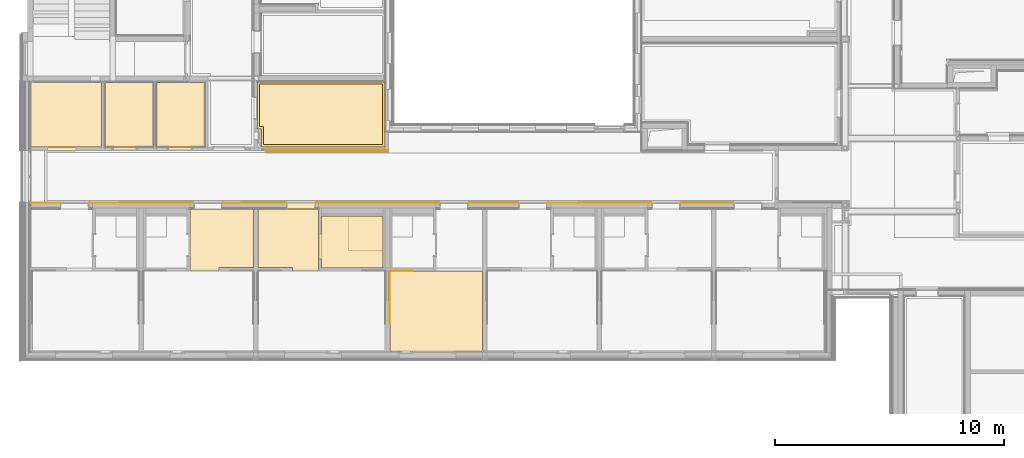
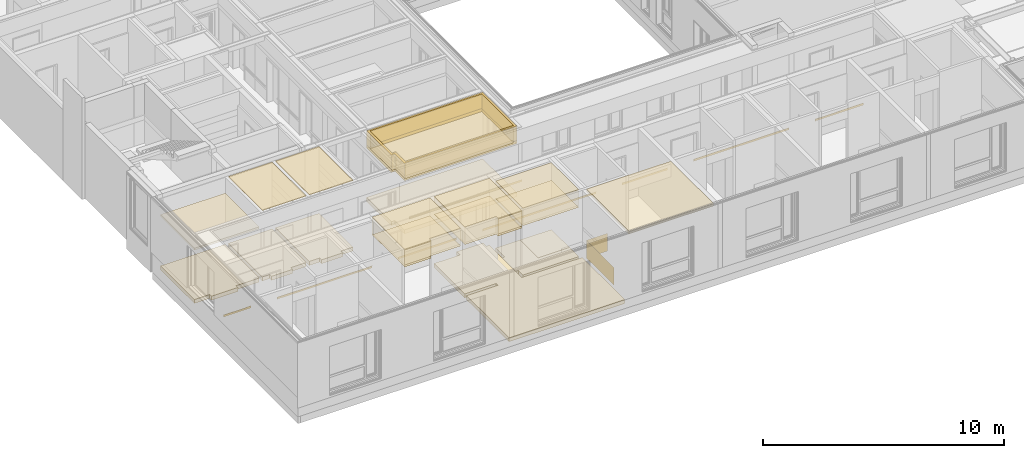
# One storey, part 159 of 207: 37 coverings.
"""IFC4 building model written with IfcOpenShell, lengths in metres."""

import ifcopenshell
import ifcopenshell.guid

model = None  # the IFC model being written
_history = None  # IfcOwnerHistory: only IFC2X3 demands one
_inside = {}  # id of a spatial element -> (the spatial element, [elements in it])
_under = {}  # id of a project, library or spatial element -> (it, [spatial elements below it])
_declared = {}  # id of a project -> (the project, [libraries it declares])
_typed = {}  # id of a type object -> (the type object, [elements of that type])
_made_of = {}  # id of a material, layer set ... -> (it, [elements and type objects made of it])


def new_model(schema):
    """Start an empty IFC model of exactly this schema.

    Asked for "IFC4X3", IfcOpenShell would pick the latest addendum, in which some entities
    have other attributes; the version numbers below select the first issue.
    IFC2X3 requires an IfcOwnerHistory on every rooted entity: one is made here for all.
    """
    global model, _history
    if schema == "IFC4X3":
        model = ifcopenshell.file(schema_version=(4, 3, 0, 0))
    else:
        model = ifcopenshell.file(schema=schema)
    _inside.clear()
    _under.clear()
    _declared.clear()
    _typed.clear()
    _made_of.clear()
    _history = None
    if model.schema == "IFC2X3":
        org = make("IfcOrganization", Name="unknown")
        user = make(
            "IfcPersonAndOrganization",
            ThePerson=make("IfcPerson", FamilyName="unknown"),
            TheOrganization=org,
        )
        app = make(
            "IfcApplication",
            ApplicationDeveloper=org,
            Version="unknown",
            ApplicationFullName="unknown",
            ApplicationIdentifier="unknown",
        )
        _history = make(
            "IfcOwnerHistory",
            OwningUser=user,
            OwningApplication=app,
            ChangeAction="ADDED",
            CreationDate=0,
        )
    return model


def make(cls, **values):
    """One entity of the class cls with the attributes given. An attribute that is None is left unset."""
    return model.create_entity(
        cls, **{name: value for name, value in values.items() if value is not None}
    )


def entity(cls, *values):
    """Any entity or typed value of the class cls, its attributes in the order of the schema. None: left unset."""
    e = model.create_entity(cls)
    for i, value in enumerate(values):
        if value is not None:
            e[i] = value
    return e


def rooted(cls, **values):
    """An entity with a GlobalId (a new one), such as an element, a storey or a relation."""
    return make(cls, GlobalId=ifcopenshell.guid.new(), OwnerHistory=_history, **values)


def si_unit(unit_type, name, prefix=None):
    """IfcSIUnit, for example si_unit("LENGTHUNIT", "METRE", prefix="MILLI")."""
    return make("IfcSIUnit", UnitType=unit_type, Prefix=prefix, Name=name)


def converted_unit(unit_type, name, factor, base, dimensions=None, offset=None):
    """IfcConversionBasedUnit, such as the inch: factor (a typed value) times the base unit."""
    return make(
        "IfcConversionBasedUnit"
        if offset is None
        else "IfcConversionBasedUnitWithOffset",
        ConversionOffset=offset,
        Dimensions=None
        if dimensions is None
        else entity("IfcDimensionalExponents", *dimensions),
        UnitType=unit_type,
        Name=name,
        ConversionFactor=make(
            "IfcMeasureWithUnit", ValueComponent=factor, UnitComponent=base
        ),
    )


def derived_unit(unit_type, elements):
    """IfcDerivedUnit: a product of units, each with its exponent."""
    return make(
        "IfcDerivedUnit",
        Elements=[
            make("IfcDerivedUnitElement", Unit=unit, Exponent=power)
            for unit, power in elements
        ],
        UnitType=unit_type,
    )


def assignment(units):
    """IfcUnitAssignment: the units of a project."""
    return None if units is None else make("IfcUnitAssignment", Units=units)


def point(xyz):
    """IfcCartesianPoint."""
    return None if xyz is None else make("IfcCartesianPoint", Coordinates=xyz)


def direction(xyz):
    """IfcDirection."""
    return None if xyz is None else make("IfcDirection", DirectionRatios=xyz)


def frame(location, z_axis=None, x_axis=None):
    """IfcAxis2Placement3D, a coordinate frame: its origin and axes. An axis left out is left unset."""
    return make(
        "IfcAxis2Placement3D",
        Location=point(location),
        Axis=direction(z_axis),
        RefDirection=direction(x_axis),
    )


def frame_2d(location, x_axis=None):
    """IfcAxis2Placement2D, a coordinate frame in the plane: its origin and x axis."""
    return make(
        "IfcAxis2Placement2D", Location=point(location), RefDirection=direction(x_axis)
    )


def origin():
    """The frame at (0, 0, 0) with its axes left unset."""
    return frame((0.0, 0.0, 0.0))


def origin_with_axes():
    """The frame at (0, 0, 0) with the z axis (0, 0, 1) and the x axis (1, 0, 0) written out."""
    return frame((0.0, 0.0, 0.0), z_axis=(0.0, 0.0, 1.0), x_axis=(1.0, 0.0, 0.0))


def place(relative_to, where):
    """IfcLocalPlacement: puts the frame where relative to a parent placement (None: the world)."""
    return make(
        "IfcLocalPlacement", PlacementRelTo=relative_to, RelativePlacement=where
    )


def context(
    kind, dimensions, precision=None, world=None, true_north=None, identifier=None
):
    """IfcGeometricRepresentationContext, for example the 3D "Model" context."""
    return make(
        "IfcGeometricRepresentationContext",
        ContextIdentifier=identifier,
        ContextType=kind,
        CoordinateSpaceDimension=dimensions,
        Precision=precision,
        WorldCoordinateSystem=world,
        TrueNorth=true_north,
    )


def subcontext(parent, identifier, kind, view, scale=None):
    """IfcGeometricRepresentationSubContext, for example "Body" below "Model"."""
    return make(
        "IfcGeometricRepresentationSubContext",
        ContextIdentifier=identifier,
        ContextType=kind,
        ParentContext=parent,
        TargetScale=scale,
        TargetView=view,
    )


def project(units=None, contexts=None):
    """IfcProject with its units and contexts."""
    return rooted(
        "IfcProject",
        Name="project",
        RepresentationContexts=contexts,
        UnitsInContext=assignment(units),
    )


def spatial(cls, under=None, at=None, **own):
    """A site, building, storey or space (cls), placed at a placement, below another one or the project."""
    s = rooted(cls, ObjectPlacement=at, **own)
    if under is not None:
        _under.setdefault(under.id(), (under, []))[1].append(s)
    return s


def polyline(points):
    """IfcPolyline through the points."""
    return make("IfcPolyline", Points=[point(p) for p in points])


def profile(cls, at=None, kind="AREA", **sizes):
    """A parametric profile (cls). Its sizes go by their IFC names, for example OverallWidth=200.0."""
    return make(cls, ProfileType=kind, Position=at, **sizes)


def rectangle(**sizes):
    """IfcRectangleProfileDef."""
    return profile("IfcRectangleProfileDef", **sizes)


def outline(outer, holes=None, kind="AREA"):
    """IfcArbitraryClosedProfileDef: a profile drawn as a closed curve; with holes, ...WithVoids."""
    if holes is None:
        return make("IfcArbitraryClosedProfileDef", ProfileType=kind, OuterCurve=outer)
    return make(
        "IfcArbitraryProfileDefWithVoids",
        ProfileType=kind,
        OuterCurve=outer,
        InnerCurves=holes,
    )


def extrude(swept, where, along, depth):
    """IfcExtrudedAreaSolid: the profile swept, set in the frame where, extruded along a direction by depth."""
    return make(
        "IfcExtrudedAreaSolid",
        SweptArea=swept,
        Position=where,
        ExtrudedDirection=direction(along),
        Depth=depth,
    )


def shape(context_of_items, identifier, shape_type, items):
    """IfcShapeRepresentation: the items that make up one representation, for example the "Body"."""
    return make(
        "IfcShapeRepresentation",
        ContextOfItems=context_of_items,
        RepresentationIdentifier=identifier,
        RepresentationType=shape_type,
        Items=items,
    )


def material(Name=None, Category=None):
    """IfcMaterial."""
    return make("IfcMaterial", Name=Name, Category=Category)


def layer(
    of_material, thickness, ventilated=None, Name=None, Category=None, Priority=None
):
    """IfcMaterialLayer: one layer of a wall or slab, of a material (None: an air gap)."""
    return make(
        "IfcMaterialLayer",
        Material=of_material,
        LayerThickness=thickness,
        IsVentilated=ventilated,
        Name=Name,
        Category=Category,
        Priority=Priority,
    )


def layer_set(layers, Name=None):
    """IfcMaterialLayerSet."""
    return make("IfcMaterialLayerSet", MaterialLayers=layers, LayerSetName=Name)


def layer_usage(for_layer_set, set_direction, sense, offset, extent=None):
    """IfcMaterialLayerSetUsage: how a layer set lies in its element."""
    return make(
        "IfcMaterialLayerSetUsage",
        ForLayerSet=for_layer_set,
        LayerSetDirection=set_direction,
        DirectionSense=sense,
        OffsetFromReferenceLine=offset,
        ReferenceExtent=extent,
    )


def made_of(thing, what):
    """Note that an element or type object is made of a material, layer set ...; save() writes the relation."""
    if what is not None:
        _made_of.setdefault(what.id(), (what, []))[1].append(thing)
    return thing


def element(
    cls,
    number,
    at=None,
    inside=None,
    cuts=None,
    type_object=None,
    material=None,
    context=None,
    identifier="Body",
    shape_type=None,
    held_by="IfcProductDefinitionShape",
    body=None,
    shapes=None,
    **own,
):
    """One element of the class cls, such as IfcWall. Its Tag is "e" and its number.

    at: its placement. inside: the storey or other place that contains it. cuts: it is an
    opening in that element (IfcRelVoidsElement). A single representation is given by context,
    identifier, shape_type and body (its items); several are given by shapes. held_by: the class
    of the entity that holds the representations. save() writes the other relations.
    """
    e = rooted(cls, Tag="e%d" % number, ObjectPlacement=at, **own)
    if body is not None:
        shapes = [shape(context, identifier, shape_type, body)]
    if shapes is not None:
        e.Representation = make(held_by, Representations=shapes)
    if inside is not None:
        _inside.setdefault(inside.id(), (inside, []))[1].append(e)
    if cuts is not None:
        rooted(
            "IfcRelVoidsElement", RelatingBuildingElement=cuts, RelatedOpeningElement=e
        )
    if type_object is not None:
        _typed.setdefault(type_object.id(), (type_object, []))[1].append(e)
    return made_of(e, material)


def aggregate(whole, parts):
    """IfcRelAggregates: a whole, such as a stair, and the parts it consists of."""
    return rooted("IfcRelAggregates", RelatingObject=whole, RelatedObjects=parts)


def save(model, path):
    """Write the relations noted so far, then the file.

    IfcRelAggregates (storeys below a building ...), IfcRelContainedInSpatialStructure (elements
    in a storey), IfcRelDefinesByType, IfcRelAssociatesMaterial and IfcRelDeclares: one each for
    every whole, place, type object, material and project.
    """
    for whole, parts in _under.values():
        aggregate(whole, parts)
    for where, things in _inside.values():
        rooted(
            "IfcRelContainedInSpatialStructure",
            RelatedElements=things,
            RelatingStructure=where,
        )
    for kind, things in _typed.values():
        rooted("IfcRelDefinesByType", RelatedObjects=things, RelatingType=kind)
    for what, things in _made_of.values():
        rooted("IfcRelAssociatesMaterial", RelatedObjects=things, RelatingMaterial=what)
    for by, libraries in _declared.values():
        rooted("IfcRelDeclares", RelatingContext=by, RelatedDefinitions=libraries)
    model.write(path)


model = new_model("IFC4")

# Units and contexts
model_context = context("Model", 3, precision=1e-05, world=origin())
body_context = subcontext(model_context, "Body", "Model", "MODEL_VIEW")
ifc_project = project(units=[si_unit("LENGTHUNIT", "METRE"), si_unit("AREAUNIT", "SQUARE_METRE"), si_unit("VOLUMEUNIT", "CUBIC_METRE"), si_unit("MASSUNIT", "GRAM", prefix="KILO"), converted_unit("PLANEANGLEUNIT", "DEGREE", entity("IfcPlaneAngleMeasure", 0.0174532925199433), si_unit("PLANEANGLEUNIT", "RADIAN"), dimensions=[0, 0, 0, 0, 0, 0, 0]), derived_unit("THERMALTRANSMITTANCEUNIT", [(si_unit("POWERUNIT", "WATT"), 1), (si_unit("THERMODYNAMICTEMPERATUREUNIT", "KELVIN"), -1), (si_unit("LENGTHUNIT", "METRE"), -2)]), derived_unit("VOLUMETRICFLOWRATEUNIT", [(si_unit("LENGTHUNIT", "METRE"), 3), (converted_unit("TIMEUNIT", "hour", entity("IfcTimeMeasure", 3600.0), si_unit("TIMEUNIT", "SECOND"), dimensions=[0, 0, 1, 0, 0, 0, 0]), -1), (si_unit("LENGTHUNIT", "METRE"), -1)])], contexts=[model_context])

# Site, building, storey, space
site_placement = place(None, origin())
site = spatial("IfcSite", under=ifc_project, at=site_placement, Name="Psychiatrie Neubau Wunstorf", CompositionType="ELEMENT")
building_placement = place(site_placement, origin())
building = spatial("IfcBuilding", under=site, at=building_placement, Name="Neubau H2 Stationsgebäude", CompositionType="ELEMENT")
storey_placement = place(building_placement, frame((0.0, 0.0, -0.2)))
storey = spatial("IfcBuildingStorey", under=building, at=storey_placement, Name="H2 Ebene 0", CompositionType="ELEMENT", Elevation=-0.2)
space_1_placement = place(storey_placement, frame((0.169, 4.33074963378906, 0.0)))
space_1 = spatial("IfcSpace", under=storey, at=space_1_placement, Name="WUN-H2-E00-F04", CompositionType="ELEMENT")

# Coverings
ifc_material_1 = material(Name="97")
ifc_layer_1 = layer(ifc_material_1, 0.001)
ifc_layer_set_1 = layer_set([ifc_layer_1])
ifc_layer_usage_1 = layer_usage(ifc_layer_set_1, "AXIS3", "POSITIVE", 0.0)
covering_1_placement = place(space_1_placement, frame((0.0, 0.0, 0.8)))
element("IfcCovering", 1, at=covering_1_placement, inside=space_1, material=ifc_layer_usage_1, Name="Handlauf", PredefinedType="CLADDING", context=body_context, shape_type="SweptSolid", body=[
    extrude(rectangle(XDim=0.1, YDim=4.55, at=frame_2d((2.275, 0.05), x_axis=(0.0, 1.0))), frame((22.556, 0.0, 0.1), z_axis=(0.0, 1.0, 0.0), x_axis=(1.0, 0.0, 0.0)), (0.0, 0.0, 1.0), 0.001),
    extrude(rectangle(XDim=0.1, YDim=2.32000000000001, at=frame_2d((1.16, 0.05), x_axis=(-3.63797880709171e-14, 1.0))), frame((28.366, 0.0, 0.1), z_axis=(0.0, 1.0, 0.0), x_axis=(1.0, 0.0, 0.0)), (0.0, 0.0, 1.0), 0.001),
    extrude(rectangle(XDim=0.1, YDim=4.55, at=frame_2d((-2.275, -0.05), x_axis=(0.0, -1.0))), frame((7.106, 0.0, 0.0), z_axis=(9.99444727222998e-17, 1.0, -4.54747350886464e-15), x_axis=(1.0, -9.99444727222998e-17, 0.0)), (0.0, 0.0, 1.0), 0.001),
    extrude(rectangle(XDim=0.1, YDim=2.18, at=frame_2d((-1.09, -0.05), x_axis=(0.0, -1.0))), frame((21.296, 0.0, 0.0), z_axis=(0.0, 1.0, 0.0), x_axis=(1.0, 0.0, 0.0)), (0.0, 0.0, 1.0), 0.001),
    extrude(rectangle(XDim=0.1, YDim=5.425, at=frame_2d((-2.7125, -0.05), x_axis=(0.0, -1.0))), frame((17.856, 0.0, 0.0), z_axis=(0.0, 1.0, 0.0), x_axis=(1.0, 0.0, 0.0)), (0.0, 0.0, 1.0), 0.001),
    extrude(rectangle(XDim=0.1, YDim=2.805, at=frame_2d((-1.4025, -0.05), x_axis=(0.0, -1.0))), frame((11.171, 0.0, 0.0), z_axis=(0.0, 1.0, 0.0), x_axis=(1.0, 0.0, 0.0)), (0.0, 0.0, 1.0), 0.001),
    extrude(rectangle(XDim=0.1, YDim=1.296, at=frame_2d((-0.648, -0.05), x_axis=(4.54747350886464e-15, -1.0))), frame((1.296, 0.0, 0.0), z_axis=(0.0, 1.0, 0.0), x_axis=(1.0, 0.0, 0.0)), (0.0, 0.0, 1.0), 0.001),
])
ifc_material_2 = material(Name="97")
ifc_layer_2 = layer(ifc_material_2, 0.001)
ifc_layer_set_2 = layer_set([ifc_layer_2])
ifc_layer_usage_2 = layer_usage(ifc_layer_set_2, "AXIS3", "POSITIVE", 0.0)
covering_2_placement = place(space_1_placement, frame((10.241, 2.2942502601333, 0.8)))
element("IfcCovering", 2, at=covering_2_placement, inside=space_1, material=ifc_layer_usage_2, Name="Handlauf", PredefinedType="CLADDING", context=body_context, shape_type="SweptSolid", body=[
    extrude(rectangle(XDim=0.1, YDim=5.379, at=frame_2d((-2.6895, -0.05), x_axis=(0.0, -1.0))), frame((0.0, 0.0, 0.0), z_axis=(0.0, -1.0, 0.0), x_axis=(-1.0, 0.0, 0.0)), (0.0, 0.0, 1.0), 0.001),
])

# Space
space_2_placement = place(storey_placement, frame((12.875, 1.48374963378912, 0.0)))
space_2 = spatial("IfcSpace", under=storey, at=space_2_placement, Name="WUN-H2-E00-023a", CompositionType="ELEMENT")

# Coverings
ifc_material_3 = material(Name="Fl1")
ifc_layer_3 = layer(ifc_material_3, 0.2)
ifc_layer_set_3 = layer_set([ifc_layer_3])
ifc_layer_usage_3 = layer_usage(ifc_layer_set_3, "AXIS3", "POSITIVE", 0.0)
covering_3_placement = place(space_2_placement, frame((-0.125, 0.0, 0.0)))
element("IfcCovering", 3, at=covering_3_placement, inside=space_2, material=ifc_layer_usage_3, Name="Fliesen", PredefinedType="FLOORING", context=body_context, shape_type="SweptSolid", body=[
    extrude(rectangle(XDim=0.125, YDim=1.135, at=frame_2d((0.0625, 0.5675), x_axis=(1.0, 0.0))), frame((0.0, 0.37499999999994, 0.0), z_axis=(0.0, 0.0, 1.0), x_axis=(1.0, 0.0, 0.0)), (0.0, 0.0, 1.0), 0.2),
    extrude(outline(polyline([(0.0, 0.0), (2.675, 0.0), (2.675, 0.76499947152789), (1.17499999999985, 0.76499947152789), (1.17499999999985, 2.265), (0.0, 2.265), (0.0, 0.0)])), frame((0.125, 0.0, 0.0), z_axis=(0.0, 0.0, 1.0), x_axis=(1.0, 0.0, 0.0)), (0.0, 0.0, 1.0), 0.2),
])
ifc_material_4 = material(Name="Fl2")
ifc_layer_4 = layer(ifc_material_4, 0.2)
ifc_layer_set_4 = layer_set([ifc_layer_4])
ifc_layer_usage_4 = layer_usage(ifc_layer_set_4, "AXIS3", "POSITIVE", 0.0)
covering_4_placement = place(space_2_placement, frame((1.17499999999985, 0.76499947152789, 0.0)))
element("IfcCovering", 4, at=covering_4_placement, inside=space_2, material=ifc_layer_usage_4, Name="Fliesen Mosaik", PredefinedType="FLOORING", context=body_context, shape_type="SweptSolid", body=[
    extrude(rectangle(XDim=1.50000000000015, YDim=1.50000052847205, at=frame_2d((0.750000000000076, 0.750000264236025), x_axis=(1.0, 0.0))), origin_with_axes(), (0.0, 0.0, 1.0), 0.2),
])
ifc_material_5 = material()
ifc_layer_5 = layer(ifc_material_5, 0.036)
ifc_layer_set_5 = layer_set([ifc_layer_5])
ifc_layer_usage_5 = layer_usage(ifc_layer_set_5, "AXIS3", "POSITIVE", 0.0)
covering_5_placement = place(space_2_placement, frame((0.0, 0.0, 3.6)))
element("IfcCovering", 5, at=covering_5_placement, inside=space_2, material=ifc_layer_usage_5, Name="Gipsfaserplatten 2-lagig (BSK)", PredefinedType="CEILING", context=body_context, shape_type="SweptSolid", body=[
    extrude(rectangle(XDim=2.265, YDim=2.675, at=frame_2d((-1.3375, 1.1325), x_axis=(0.0, 1.0))), frame((2.675, 2.265, 0.0), z_axis=(0.0, 0.0, -1.0), x_axis=(1.0, 0.0, 0.0)), (0.0, 0.0, 1.0), 0.036),
])
ifc_material_6 = material(Name="Installationshöhe")
ifc_layer_6 = layer(ifc_material_6, 0.764)
ifc_layer_set_6 = layer_set([ifc_layer_6])
ifc_layer_usage_6 = layer_usage(ifc_layer_set_6, "AXIS3", "POSITIVE", 0.0)
covering_6_placement = place(space_2_placement, frame((0.0, 0.0, 3.564)))
element("IfcCovering", 6, at=covering_6_placement, inside=space_2, material=ifc_layer_usage_6, Name="Gipsfaserplatten 2-lagig (BSK)", PredefinedType="CEILING", context=body_context, shape_type="SweptSolid", body=[
    extrude(rectangle(XDim=2.265, YDim=2.675, at=frame_2d((-1.3375, 1.1325), x_axis=(0.0, 1.0))), frame((2.675, 2.265, 0.0), z_axis=(0.0, 0.0, -1.0), x_axis=(1.0, 0.0, 0.0)), (0.0, 0.0, 1.0), 0.764),
])
ifc_material_7 = material(Name="B")
ifc_layer_7 = layer(ifc_material_7, 0.1)
ifc_layer_set_7 = layer_set([ifc_layer_7])
ifc_layer_usage_7 = layer_usage(ifc_layer_set_7, "AXIS3", "POSITIVE", 0.0)
covering_7_placement = place(space_2_placement, frame((0.0, 0.0, 2.8)))
element("IfcCovering", 7, at=covering_7_placement, inside=space_2, material=ifc_layer_usage_7, Name="Gipskarton, imprägniert", PredefinedType="CEILING", context=body_context, shape_type="SweptSolid", body=[
    extrude(rectangle(XDim=2.265, YDim=2.675, at=frame_2d((-1.3375, 1.1325), x_axis=(0.0, 1.0))), frame((2.675, 2.265, 0.0), z_axis=(0.0, 0.0, -1.0), x_axis=(1.0, 0.0, 0.0)), (0.0, 0.0, 1.0), 0.1),
])
ifc_material_8 = material(Name="D1")
ifc_layer_8 = layer(ifc_material_8, 0.001)
ifc_layer_set_8 = layer_set([ifc_layer_8])
ifc_layer_usage_8 = layer_usage(ifc_layer_set_8, "AXIS3", "POSITIVE", 0.0)
covering_8_placement = place(space_2_placement, frame((0.0, 0.0, 2.7)))
element("IfcCovering", 8, at=covering_8_placement, inside=space_2, material=ifc_layer_usage_8, Name="Gipsfaserplatten 2-lagig (BSK)", PredefinedType="CEILING", context=body_context, shape_type="SweptSolid", body=[
    extrude(rectangle(XDim=2.265, YDim=2.675, at=frame_2d((-1.3375, 1.1325), x_axis=(0.0, 1.0))), frame((2.675, 2.265, 0.0), z_axis=(0.0, 0.0, -1.0), x_axis=(1.0, 0.0, 0.0)), (0.0, 0.0, 1.0), 0.001),
])

# Space
space_3_placement = place(storey_placement, frame((0.168999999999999, 6.77499990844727, 0.0)))
space_3 = spatial("IfcSpace", under=storey, at=space_3_placement, Name="WUN-H2-E00-026", CompositionType="ELEMENT")

# Coverings
ifc_material_9 = material(Name="E3")
ifc_layer_9 = layer(ifc_material_9, 0.1)
ifc_layer_set_9 = layer_set([ifc_layer_9])
ifc_layer_usage_9 = layer_usage(ifc_layer_set_9, "AXIS3", "POSITIVE", 0.0)
covering_9_placement = place(space_3_placement, frame((0.0, 0.0, 2.8)))
element("IfcCovering", 9, at=covering_9_placement, inside=space_3, material=ifc_layer_usage_9, Name="Rasterdecke", PredefinedType="CEILING", context=body_context, shape_type="SweptSolid", body=[
    extrude(rectangle(XDim=3.106, YDim=2.8199999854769, at=frame_2d((-1.553, -1.40999999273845), x_axis=(-1.0, 0.0))), frame((3.106, 0.0, 0.0), z_axis=(0.0, 0.0, -1.0), x_axis=(1.0, 0.0, 0.0)), (0.0, 0.0, 1.0), 0.1),
])
ifc_material_10 = material(Name="Ku2")
ifc_layer_10 = layer(ifc_material_10, 0.2)
ifc_layer_set_10 = layer_set([ifc_layer_10])
ifc_layer_usage_10 = layer_usage(ifc_layer_set_10, "AXIS3", "POSITIVE", 0.0)
covering_10_placement = place(space_3_placement, frame((0.0, -0.150000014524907, 0.0)))
element("IfcCovering", 10, at=covering_10_placement, inside=space_3, material=ifc_layer_usage_10, Name="PVC Bahnenware Uni", PredefinedType="FLOORING", context=body_context, shape_type="SweptSolid", body=[
    extrude(rectangle(XDim=0.15, YDim=1.26, at=frame_2d((-0.63, 0.075), x_axis=(0.0, 1.0))), frame((1.991, 0.0, 0.0), z_axis=(0.0, 0.0, 1.0), x_axis=(1.0, 0.0, 0.0)), (0.0, 0.0, 1.0), 0.2),
    extrude(rectangle(XDim=3.106, YDim=2.8199999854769, at=frame_2d((1.553, 1.40999999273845), x_axis=(1.0, 0.0))), frame((0.0, 0.150000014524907, 0.0), z_axis=(0.0, 0.0, 1.0), x_axis=(1.0, 0.0, 0.0)), (0.0, 0.0, 1.0), 0.2),
])

# Space
space_4_placement = place(storey_placement, frame((10.0675000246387, 6.77499990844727, 0.0)))
space_4 = spatial("IfcSpace", under=storey, at=space_4_placement, Name="WUN-H2-E00-037", CompositionType="ELEMENT")

# Coverings
ifc_material_11 = material(Name="Ku1")
ifc_layer_11 = layer(ifc_material_11, 0.2)
ifc_layer_set_11 = layer_set([ifc_layer_11])
ifc_layer_usage_11 = layer_usage(ifc_layer_set_11, "AXIS3", "POSITIVE", 0.0)
covering_11_placement = place(space_4_placement, origin())
element("IfcCovering", 11, at=covering_11_placement, inside=space_4, material=ifc_layer_usage_11, Name="PVC Bahnenware Holzoptik", PredefinedType="FLOORING", context=body_context, shape_type="SweptSolid", body=[
    extrude(outline(polyline([(0.175000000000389, 0.789999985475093), (0.175000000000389, 0.0), (5.57149997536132, 0.0), (5.57149997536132, 2.83549998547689), (0.0, 2.83549998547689), (0.0, 0.789999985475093), (0.175000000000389, 0.789999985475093)])), origin_with_axes(), (0.0, 0.0, 1.0), 0.2),
])
ifc_material_12 = material()
ifc_layer_12 = layer(ifc_material_12, 0.036)
ifc_layer_set_12 = layer_set([ifc_layer_12])
ifc_layer_usage_12 = layer_usage(ifc_layer_set_12, "AXIS3", "POSITIVE", 0.0)
covering_12_placement = place(space_4_placement, frame((0.1, 0.0999999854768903, 3.6)))
element("IfcCovering", 12, at=covering_12_placement, inside=space_4, material=ifc_layer_usage_12, Name="Gipsfaserplatten 2-lagig (BSK)", PredefinedType="CEILING", context=body_context, shape_type="SweptSolid", body=[
    extrude(outline(polyline([(0.0, 0.0), (5.37149997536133, 1.45231097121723e-08), (5.37149997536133, 2.6355000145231), (0.175000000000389, 2.63549999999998), (0.175000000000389, 1.84550001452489), (0.0, 1.84550001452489), (0.0, 0.0)])), frame((0.0, 2.6355000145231, 0.0), z_axis=(0.0, 0.0, -1.0), x_axis=(1.0, 0.0, 0.0)), (0.0, 0.0, 1.0), 0.036),
])
ifc_material_13 = material(Name="Installationshöhe")
ifc_layer_13 = layer(ifc_material_13, 0.714)
ifc_layer_set_13 = layer_set([ifc_layer_13])
ifc_layer_usage_13 = layer_usage(ifc_layer_set_13, "AXIS3", "POSITIVE", 0.0)
covering_13_placement = place(space_4_placement, frame((0.1, 0.0999999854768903, 3.564)))
element("IfcCovering", 13, at=covering_13_placement, inside=space_4, material=ifc_layer_usage_13, Name="Gipsfaserplatten 2-lagig (BSK)", PredefinedType="CEILING", context=body_context, shape_type="SweptSolid", body=[
    extrude(outline(polyline([(0.0, 0.0), (5.37149997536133, 1.45231097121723e-08), (5.37149997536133, 2.6355000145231), (0.175000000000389, 2.63549999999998), (0.175000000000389, 1.84550001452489), (0.0, 1.84550001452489), (0.0, 0.0)])), frame((0.0, 2.6355000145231, 0.0), z_axis=(0.0, 0.0, -1.0), x_axis=(1.0, 0.0, 0.0)), (0.0, 0.0, 1.0), 0.714),
])
ifc_material_14 = material(Name="Aa")
ifc_layer_14 = layer(ifc_material_14, 0.15)
ifc_layer_set_14 = layer_set([ifc_layer_14])
ifc_layer_usage_14 = layer_usage(ifc_layer_set_14, "AXIS3", "POSITIVE", 0.0)
covering_14_placement = place(space_4_placement, frame((0.1, 0.0999999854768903, 2.85)))
element("IfcCovering", 14, at=covering_14_placement, inside=space_4, material=ifc_layer_usage_14, Name="Gipsfaserplatten 2-lagig (BSK)", PredefinedType="CEILING", context=body_context, shape_type="SweptSolid", body=[
    extrude(outline(polyline([(0.0, 0.0), (5.37149997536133, 1.45231097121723e-08), (5.37149997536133, 2.6355000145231), (0.175000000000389, 2.63549999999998), (0.175000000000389, 1.84550001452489), (0.0, 1.84550001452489), (0.0, 0.0)])), frame((0.0, 2.6355000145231, 0.0), z_axis=(0.0, 0.0, -1.0), x_axis=(1.0, 0.0, 0.0)), (0.0, 0.0, 1.0), 0.15),
])
ifc_material_15 = material(Name="D1")
ifc_layer_15 = layer(ifc_material_15, 0.001)
ifc_layer_set_15 = layer_set([ifc_layer_15])
ifc_layer_usage_15 = layer_usage(ifc_layer_set_15, "AXIS3", "POSITIVE", 0.0)
covering_15_placement = place(space_4_placement, frame((0.1, 0.0999999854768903, 2.7)))
element("IfcCovering", 15, at=covering_15_placement, inside=space_4, material=ifc_layer_usage_15, Name="Gipsfaserplatten 2-lagig (BSK)", PredefinedType="CEILING", context=body_context, shape_type="SweptSolid", body=[
    extrude(outline(polyline([(0.0, 0.0), (5.37149997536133, 1.45231097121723e-08), (5.37149997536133, 2.6355000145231), (0.175000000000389, 2.63549999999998), (0.175000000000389, 1.84550001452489), (0.0, 1.84550001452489), (0.0, 0.0)])), frame((0.0, 2.6355000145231, 0.0), z_axis=(0.0, 0.0, -1.0), x_axis=(1.0, 0.0, 0.0)), (0.0, 0.0, 1.0), 0.001),
])
ifc_material_16 = material()
ifc_layer_16 = layer(ifc_material_16, 0.036)
ifc_layer_set_16 = layer_set([ifc_layer_16])
ifc_layer_usage_16 = layer_usage(ifc_layer_set_16, "AXIS3", "POSITIVE", 0.0)
covering_16_placement = place(space_4_placement, frame((0.0, 0.0, 3.6)))
element("IfcCovering", 16, at=covering_16_placement, inside=space_4, material=ifc_layer_usage_16, Name="Gipsfaserplatten 2-lagig (BSK)", PredefinedType="CEILING", context=body_context, shape_type="SweptSolid", body=[
    extrude(outline(polyline([(0.0, 0.0), (5.57149997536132, 0.0), (5.57149997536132, 2.8354999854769), (0.175, 2.83549997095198), (0.175000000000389, 2.0455000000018), (0.0, 2.0455000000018), (0.0, 0.0)]), holes=[polyline([(5.47149997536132, 0.100000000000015), (0.1, 0.0999999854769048), (0.1, 1.9455000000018), (0.275000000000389, 1.9455000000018), (0.275000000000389, 2.73549998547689), (5.47149997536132, 2.7355), (5.47149997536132, 0.100000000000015)])]), frame((0.0, 2.8354999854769, 0.0), z_axis=(0.0, 0.0, -1.0), x_axis=(1.0, 0.0, 0.0)), (0.0, 0.0, 1.0), 0.036),
])
ifc_material_17 = material(Name="Installationshöhe")
ifc_layer_17 = layer(ifc_material_17, 0.714)
ifc_layer_set_17 = layer_set([ifc_layer_17])
ifc_layer_usage_17 = layer_usage(ifc_layer_set_17, "AXIS3", "POSITIVE", 0.0)
covering_17_placement = place(space_4_placement, frame((0.0, 0.0, 3.564)))
element("IfcCovering", 17, at=covering_17_placement, inside=space_4, material=ifc_layer_usage_17, Name="Gipsfaserplatten 2-lagig (BSK)", PredefinedType="CEILING", context=body_context, shape_type="SweptSolid", body=[
    extrude(outline(polyline([(0.0, 0.0), (5.57149997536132, 0.0), (5.57149997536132, 2.8354999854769), (0.175, 2.83549997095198), (0.175000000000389, 2.0455000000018), (0.0, 2.0455000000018), (0.0, 0.0)]), holes=[polyline([(5.47149997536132, 0.100000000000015), (0.1, 0.0999999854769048), (0.1, 1.9455000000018), (0.275000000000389, 1.9455000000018), (0.275000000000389, 2.73549998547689), (5.47149997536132, 2.7355), (5.47149997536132, 0.100000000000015)])]), frame((0.0, 2.8354999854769, 0.0), z_axis=(0.0, 0.0, -1.0), x_axis=(1.0, 0.0, 0.0)), (0.0, 0.0, 1.0), 0.714),
])
ifc_material_18 = material(Name="A1")
ifc_layer_18 = layer(ifc_material_18, 0.15)
ifc_layer_set_18 = layer_set([ifc_layer_18])
ifc_layer_usage_18 = layer_usage(ifc_layer_set_18, "AXIS3", "POSITIVE", 0.0)
covering_18_placement = place(space_4_placement, frame((0.0, 0.0, 2.85)))
element("IfcCovering", 18, at=covering_18_placement, inside=space_4, material=ifc_layer_usage_18, Name="Gipsfaserplatten 2-lagig (BSK)", PredefinedType="CEILING", context=body_context, shape_type="SweptSolid", body=[
    extrude(outline(polyline([(0.0, 0.0), (5.57149997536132, 0.0), (5.57149997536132, 2.8354999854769), (0.175, 2.83549997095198), (0.175000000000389, 2.0455000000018), (0.0, 2.0455000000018), (0.0, 0.0)]), holes=[polyline([(5.47149997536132, 0.100000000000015), (0.1, 0.0999999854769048), (0.1, 1.9455000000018), (0.275000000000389, 1.9455000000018), (0.275000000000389, 2.73549998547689), (5.47149997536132, 2.7355), (5.47149997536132, 0.100000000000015)])]), frame((0.0, 2.8354999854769, 0.0), z_axis=(0.0, 0.0, -1.0), x_axis=(1.0, 0.0, 0.0)), (0.0, 0.0, 1.0), 0.15),
])
ifc_material_19 = material(Name="D1")
ifc_layer_19 = layer(ifc_material_19, 0.001)
ifc_layer_set_19 = layer_set([ifc_layer_19])
ifc_layer_usage_19 = layer_usage(ifc_layer_set_19, "AXIS3", "POSITIVE", 0.0)
covering_19_placement = place(space_4_placement, frame((0.0, 0.0, 2.7)))
element("IfcCovering", 19, at=covering_19_placement, inside=space_4, material=ifc_layer_usage_19, Name="Gipsfaserplatten 2-lagig (BSK)", PredefinedType="CEILING", context=body_context, shape_type="SweptSolid", body=[
    extrude(outline(polyline([(0.0, 0.0), (5.57149997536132, 0.0), (5.57149997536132, 2.8354999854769), (0.175, 2.83549997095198), (0.175000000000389, 2.0455000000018), (0.0, 2.0455000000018), (0.0, 0.0)]), holes=[polyline([(5.47149997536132, 0.100000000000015), (0.1, 0.0999999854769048), (0.1, 1.9455000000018), (0.275000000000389, 1.9455000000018), (0.275000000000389, 2.73549998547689), (5.47149997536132, 2.7355), (5.47149997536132, 0.100000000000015)])]), frame((0.0, 2.8354999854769, 0.0), z_axis=(0.0, 0.0, -1.0), x_axis=(1.0, 0.0, 0.0)), (0.0, 0.0, 1.0), 0.001),
])

# Space
space_5_placement = place(storey_placement, frame((5.1, -2.16399999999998, 0.0)))
space_5 = spatial("IfcSpace", under=storey, at=space_5_placement, Name="WUN-H2-E00-024", CompositionType="ELEMENT")

# Coverings
ifc_material_20 = material()
ifc_layer_20 = layer(ifc_material_20, 0.036)
ifc_layer_set_20 = layer_set([ifc_layer_20])
ifc_layer_usage_20 = layer_usage(ifc_layer_set_20, "AXIS3", "POSITIVE", 0.0)
covering_20_placement = place(space_5_placement, frame((2.025, 3.52274963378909, 3.6)))
element("IfcCovering", 20, at=covering_20_placement, inside=space_5, material=ifc_layer_usage_20, Name="Gipsfaserplatten 2-lagig (BSK)", PredefinedType="CEILING", context=body_context, shape_type="SweptSolid", body=[
    extrude(outline(polyline([(0.0, 2.70049999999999), (0.0, 0.0), (2.775, 0.0), (2.775, 2.5505), (1.275, 2.5505), (1.27499999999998, 2.70049999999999), (0.0, 2.70049999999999)])), frame((0.0, 2.70049999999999, 0.0), z_axis=(0.0, 0.0, -1.0), x_axis=(1.0, 0.0, 0.0)), (0.0, 0.0, 1.0), 0.036),
])
ifc_material_21 = material(Name="Installationshöhe")
ifc_layer_21 = layer(ifc_material_21, 0.764)
ifc_layer_set_21 = layer_set([ifc_layer_21])
ifc_layer_usage_21 = layer_usage(ifc_layer_set_21, "AXIS3", "POSITIVE", 0.0)
covering_21_placement = place(space_5_placement, frame((2.025, 3.52274963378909, 3.564)))
element("IfcCovering", 21, at=covering_21_placement, inside=space_5, material=ifc_layer_usage_21, Name="Gipsfaserplatten 2-lagig (BSK)", PredefinedType="CEILING", context=body_context, shape_type="SweptSolid", body=[
    extrude(outline(polyline([(0.0, 2.70049999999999), (0.0, 0.0), (2.775, 0.0), (2.775, 2.5505), (1.275, 2.5505), (1.27499999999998, 2.70049999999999), (0.0, 2.70049999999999)])), frame((0.0, 2.70049999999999, 0.0), z_axis=(0.0, 0.0, -1.0), x_axis=(1.0, 0.0, 0.0)), (0.0, 0.0, 1.0), 0.764),
])
ifc_material_22 = material(Name="A1")
ifc_layer_22 = layer(ifc_material_22, 0.1)
ifc_layer_set_22 = layer_set([ifc_layer_22])
ifc_layer_usage_22 = layer_usage(ifc_layer_set_22, "AXIS3", "POSITIVE", 0.0)
covering_22_placement = place(space_5_placement, frame((2.025, 3.52274963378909, 2.8)))
element("IfcCovering", 22, at=covering_22_placement, inside=space_5, material=ifc_layer_usage_22, Name="Gipsfaserplatten 2-lagig (BSK)", PredefinedType="CEILING", context=body_context, shape_type="SweptSolid", body=[
    extrude(outline(polyline([(0.0, 2.70049999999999), (0.0, 0.0), (2.775, 0.0), (2.775, 2.5505), (1.275, 2.5505), (1.27499999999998, 2.70049999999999), (0.0, 2.70049999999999)])), frame((0.0, 2.70049999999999, 0.0), z_axis=(0.0, 0.0, -1.0), x_axis=(1.0, 0.0, 0.0)), (0.0, 0.0, 1.0), 0.1),
])
ifc_material_23 = material(Name="D1")
ifc_layer_23 = layer(ifc_material_23, 0.001)
ifc_layer_set_23 = layer_set([ifc_layer_23])
ifc_layer_usage_23 = layer_usage(ifc_layer_set_23, "AXIS3", "POSITIVE", 0.0)
covering_23_placement = place(space_5_placement, frame((2.025, 3.52274963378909, 2.7)))
element("IfcCovering", 23, at=covering_23_placement, inside=space_5, material=ifc_layer_usage_23, Name="Gipsfaserplatten 2-lagig (BSK)", PredefinedType="CEILING", context=body_context, shape_type="SweptSolid", body=[
    extrude(outline(polyline([(0.0, 2.70049999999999), (0.0, 0.0), (2.775, 0.0), (2.775, 2.5505), (1.275, 2.5505), (1.27499999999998, 2.70049999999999), (0.0, 2.70049999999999)])), frame((0.0, 2.70049999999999, 0.0), z_axis=(0.0, 0.0, -1.0), x_axis=(1.0, 0.0, 0.0)), (0.0, 0.0, 1.0), 0.001),
])

# Space
space_6_placement = place(storey_placement, frame((15.85, -2.16399999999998, 0.0)))
space_6 = spatial("IfcSpace", under=storey, at=space_6_placement, Name="WUN-H2-E00-022", CompositionType="ELEMENT")

# Coverings
ifc_material_24 = material(Name="84")
ifc_layer_24 = layer(ifc_material_24, 0.001)
ifc_layer_set_24 = layer_set([ifc_layer_24])
ifc_layer_usage_24 = layer_usage(ifc_layer_set_24, "AXIS3", "POSITIVE", 0.0)
covering_24_placement = place(space_6_placement, frame((0.0, 1.22274963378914, 0.1)))
element("IfcCovering", 24, at=covering_24_placement, inside=space_6, material=ifc_layer_usage_24, Name="Acrobyn", PredefinedType="CLADDING", context=body_context, shape_type="SweptSolid", body=[
    extrude(rectangle(XDim=1.0, YDim=0.9, at=frame_2d((0.5, -0.45), x_axis=(1.0, 0.0))), frame((1.0, 2.3, 0.0), z_axis=(0.0, -1.0, 0.0), x_axis=(-1.0, 0.0, 0.0)), (0.0, 0.0, 1.0), 0.001),
    extrude(rectangle(XDim=2.3, YDim=0.9, at=frame_2d((1.15, -0.45), x_axis=(1.0, 0.0))), frame((0.0, 2.3, 0.0), z_axis=(1.0, 0.0, 0.0), x_axis=(0.0, -1.0, 0.0)), (0.0, 0.0, 1.0), 0.001),
])
ifc_material_25 = material()
ifc_layer_25 = layer(ifc_material_25, 0.036)
ifc_layer_set_25 = layer_set([ifc_layer_25])
ifc_layer_usage_25 = layer_usage(ifc_layer_set_25, "AXIS3", "POSITIVE", 0.0)
covering_25_placement = place(space_6_placement, frame((0.0, 0.0, 3.6)))
element("IfcCovering", 25, at=covering_25_placement, inside=space_6, material=ifc_layer_usage_25, Name="Gipsfaserplatten 2-lagig (BSK)", PredefinedType="CEILING", context=body_context, shape_type="SweptSolid", body=[
    extrude(rectangle(XDim=3.52274963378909, YDim=4.05, at=frame_2d((-2.025, 1.76137481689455), x_axis=(0.0, 1.0))), frame((4.05, 3.52274963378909, 0.0), z_axis=(0.0, 0.0, -1.0), x_axis=(1.0, 0.0, 0.0)), (0.0, 0.0, 1.0), 0.036),
])
ifc_material_26 = material(Name="Installationshöhe")
ifc_layer_26 = layer(ifc_material_26, 0.114)
ifc_layer_set_26 = layer_set([ifc_layer_26])
ifc_layer_usage_26 = layer_usage(ifc_layer_set_26, "AXIS3", "POSITIVE", 0.0)
covering_26_placement = place(space_6_placement, frame((0.0, 0.0, 3.564)))
element("IfcCovering", 26, at=covering_26_placement, inside=space_6, material=ifc_layer_usage_26, Name="Gipsfaserplatten 2-lagig (BSK)", PredefinedType="CEILING", context=body_context, shape_type="SweptSolid", body=[
    extrude(rectangle(XDim=3.52274963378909, YDim=4.05, at=frame_2d((-2.025, 1.76137481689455), x_axis=(0.0, 1.0))), frame((4.05, 3.52274963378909, 0.0), z_axis=(0.0, 0.0, -1.0), x_axis=(1.0, 0.0, 0.0)), (0.0, 0.0, 1.0), 0.114),
])

# Space
space_7_placement = place(storey_placement, frame((10.1, -2.16399999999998, 0.0)))
space_7 = spatial("IfcSpace", under=storey, at=space_7_placement, Name="WUN-H2-E00-023", CompositionType="ELEMENT")

# Coverings
ifc_material_27 = material(Name="Ku1")
ifc_layer_27 = layer(ifc_material_27, 0.2)
ifc_layer_set_27 = layer_set([ifc_layer_27])
ifc_layer_usage_27 = layer_usage(ifc_layer_set_27, "AXIS3", "POSITIVE", 0.0)
covering_27_placement = place(space_7_placement, origin())
element("IfcCovering", 27, at=covering_27_placement, inside=space_7, material=ifc_layer_usage_27, Name="PVC Bahnenware Holzoptik", PredefinedType="FLOORING", context=body_context, shape_type="SweptSolid", body=[
    extrude(rectangle(XDim=0.271499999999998, YDim=1.26, at=frame_2d((-0.63, 0.13575), x_axis=(0.0, 1.0))), frame((2.5, 6.22324963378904, 0.0), z_axis=(0.0, 0.0, 1.0), x_axis=(1.0, 0.0, 0.0)), (0.0, 0.0, 1.0), 0.2),
    extrude(outline(polyline([(1.50000000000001, 3.52274963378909), (0.0, 3.52274963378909), (0.0, 0.0), (5.55, 0.0), (5.55, 3.52274963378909), (2.65, 3.52274963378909), (2.65, 6.22324963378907), (0.0, 6.22324963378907), (0.0, 3.67274963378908), (1.50000000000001, 3.67274963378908), (1.50000000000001, 3.52274963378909)])), origin_with_axes(), (0.0, 0.0, 1.0), 0.2),
])
ifc_material_28 = material()
ifc_layer_28 = layer(ifc_material_28, 0.036)
ifc_layer_set_28 = layer_set([ifc_layer_28])
ifc_layer_usage_28 = layer_usage(ifc_layer_set_28, "AXIS3", "POSITIVE", 0.0)
covering_28_placement = place(space_7_placement, frame((0.0, 3.52274963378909, 3.6)))
element("IfcCovering", 28, at=covering_28_placement, inside=space_7, material=ifc_layer_usage_28, Name="Gipsfaserplatten 2-lagig (BSK)", PredefinedType="CEILING", context=body_context, shape_type="SweptSolid", body=[
    extrude(outline(polyline([(0.0, 0.0), (2.65, 0.0), (2.65, 2.70049999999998), (1.50000000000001, 2.70049999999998), (1.50000000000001, 2.5505), (0.0, 2.5505), (0.0, 0.0)])), frame((0.0, 2.70049999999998, 0.0), z_axis=(0.0, 0.0, -1.0), x_axis=(1.0, 0.0, 0.0)), (0.0, 0.0, 1.0), 0.036),
])
ifc_material_29 = material(Name="Installationshöhe")
ifc_layer_29 = layer(ifc_material_29, 0.764)
ifc_layer_set_29 = layer_set([ifc_layer_29])
ifc_layer_usage_29 = layer_usage(ifc_layer_set_29, "AXIS3", "POSITIVE", 0.0)
covering_29_placement = place(space_7_placement, frame((0.0, 3.52274963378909, 3.564)))
element("IfcCovering", 29, at=covering_29_placement, inside=space_7, material=ifc_layer_usage_29, Name="Gipsfaserplatten 2-lagig (BSK)", PredefinedType="CEILING", context=body_context, shape_type="SweptSolid", body=[
    extrude(outline(polyline([(0.0, 0.0), (2.65, 0.0), (2.65, 2.70049999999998), (1.50000000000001, 2.70049999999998), (1.50000000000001, 2.5505), (0.0, 2.5505), (0.0, 0.0)])), frame((0.0, 2.70049999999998, 0.0), z_axis=(0.0, 0.0, -1.0), x_axis=(1.0, 0.0, 0.0)), (0.0, 0.0, 1.0), 0.764),
])
ifc_material_30 = material(Name="A1")
ifc_layer_30 = layer(ifc_material_30, 0.1)
ifc_layer_set_30 = layer_set([ifc_layer_30])
ifc_layer_usage_30 = layer_usage(ifc_layer_set_30, "AXIS3", "POSITIVE", 0.0)
covering_30_placement = place(space_7_placement, frame((0.0, 3.52274963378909, 2.8)))
element("IfcCovering", 30, at=covering_30_placement, inside=space_7, material=ifc_layer_usage_30, Name="Gipsfaserplatten 2-lagig (BSK)", PredefinedType="CEILING", context=body_context, shape_type="SweptSolid", body=[
    extrude(outline(polyline([(0.0, 0.0), (2.65, 0.0), (2.65, 2.70049999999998), (1.50000000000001, 2.70049999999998), (1.50000000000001, 2.5505), (0.0, 2.5505), (0.0, 0.0)])), frame((0.0, 2.70049999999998, 0.0), z_axis=(0.0, 0.0, -1.0), x_axis=(1.0, 0.0, 0.0)), (0.0, 0.0, 1.0), 0.1),
])
ifc_material_31 = material(Name="D1")
ifc_layer_31 = layer(ifc_material_31, 0.001)
ifc_layer_set_31 = layer_set([ifc_layer_31])
ifc_layer_usage_31 = layer_usage(ifc_layer_set_31, "AXIS3", "POSITIVE", 0.0)
covering_31_placement = place(space_7_placement, frame((0.0, 3.52274963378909, 2.7)))
element("IfcCovering", 31, at=covering_31_placement, inside=space_7, material=ifc_layer_usage_31, Name="Gipsfaserplatten 2-lagig (BSK)", PredefinedType="CEILING", context=body_context, shape_type="SweptSolid", body=[
    extrude(outline(polyline([(0.0, 0.0), (2.65, 0.0), (2.65, 2.70049999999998), (1.50000000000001, 2.70049999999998), (1.50000000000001, 2.5505), (0.0, 2.5505), (0.0, 0.0)])), frame((0.0, 2.70049999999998, 0.0), z_axis=(0.0, 0.0, -1.0), x_axis=(1.0, 0.0, 0.0)), (0.0, 0.0, 1.0), 0.001),
])

# Space
space_8_placement = place(storey_placement, frame((3.425, 6.77499990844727, 0.0)))
space_8 = spatial("IfcSpace", under=storey, at=space_8_placement, Name="WUN-H2-E00-027", CompositionType="ELEMENT")

# Coverings
ifc_material_32 = material(Name="C/C")
ifc_layer_32 = layer(ifc_material_32, 0.036)
ifc_layer_set_32 = layer_set([ifc_layer_32])
ifc_layer_usage_32 = layer_usage(ifc_layer_set_32, "AXIS3", "POSITIVE", 0.0)
covering_32_placement = place(space_8_placement, frame((0.0, 0.0, 3.6)))
element("IfcCovering", 32, at=covering_32_placement, inside=space_8, material=ifc_layer_usage_32, Name="Gipsfaserplatten 2-lagig (BSK)", PredefinedType="CEILING", context=body_context, shape_type="SweptSolid", body=[
    extrude(rectangle(XDim=2.1, YDim=2.82000034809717, at=frame_2d((-1.05, -1.41000017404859), x_axis=(-1.0, 0.0))), frame((2.1, 0.0, 0.0), z_axis=(0.0, 0.0, -1.0), x_axis=(1.0, 0.0, 0.0)), (0.0, 0.0, 1.0), 0.036),
])
ifc_material_33 = material(Name="D4")
ifc_layer_33 = layer(ifc_material_33, 0.001)
ifc_layer_set_33 = layer_set([ifc_layer_33])
ifc_layer_usage_33 = layer_usage(ifc_layer_set_33, "AXIS3", "POSITIVE", 0.0)
covering_33_placement = place(space_8_placement, frame((0.0, 0.0, 3.564)))
element("IfcCovering", 33, at=covering_33_placement, inside=space_8, material=ifc_layer_usage_33, Name="Gipsfaserplatten 2-lagig (BSK)", PredefinedType="CEILING", context=body_context, shape_type="SweptSolid", body=[
    extrude(rectangle(XDim=2.1, YDim=2.82000034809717, at=frame_2d((-1.05, -1.41000017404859), x_axis=(-1.0, 0.0))), frame((2.1, 0.0, 0.0), z_axis=(0.0, 0.0, -1.0), x_axis=(1.0, 0.0, 0.0)), (0.0, 0.0, 1.0), 0.001),
])
ifc_material_34 = material(Name="Ku3")
ifc_layer_34 = layer(ifc_material_34, 0.2)
ifc_layer_set_34 = layer_set([ifc_layer_34])
ifc_layer_usage_34 = layer_usage(ifc_layer_set_34, "AXIS3", "POSITIVE", 0.0)
covering_34_placement = place(space_8_placement, frame((0.0, -0.150000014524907, 0.0)))
element("IfcCovering", 34, at=covering_34_placement, inside=space_8, material=ifc_layer_usage_34, Name="PVC", PredefinedType="FLOORING", context=body_context, shape_type="SweptSolid", body=[
    extrude(rectangle(XDim=0.15, YDim=1.01, at=frame_2d((-0.505, 0.075), x_axis=(0.0, 1.0))), frame((1.36, 0.0, 0.0), z_axis=(0.0, 0.0, 1.0), x_axis=(1.0, 0.0, 0.0)), (0.0, 0.0, 1.0), 0.2),
    extrude(rectangle(XDim=2.1, YDim=2.82000034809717, at=frame_2d((1.05, 1.41000017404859), x_axis=(1.0, 0.0))), frame((0.0, 0.150000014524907, 0.0), z_axis=(0.0, 0.0, 1.0), x_axis=(1.0, 0.0, 0.0)), (0.0, 0.0, 1.0), 0.2),
])

# Space
space_9_placement = place(storey_placement, frame((5.675, 6.77499990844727, 0.0)))
space_9 = spatial("IfcSpace", under=storey, at=space_9_placement, Name="WUN-H2-E00-028", CompositionType="ELEMENT")

# Coverings
ifc_material_35 = material(Name="C/C")
ifc_layer_35 = layer(ifc_material_35, 0.036)
ifc_layer_set_35 = layer_set([ifc_layer_35])
ifc_layer_usage_35 = layer_usage(ifc_layer_set_35, "AXIS3", "POSITIVE", 0.0)
covering_35_placement = place(space_9_placement, frame((0.0, 0.0, 3.6)))
element("IfcCovering", 35, at=covering_35_placement, inside=space_9, material=ifc_layer_usage_35, Name="Gipsfaserplatten 2-lagig (BSK)", PredefinedType="CEILING", context=body_context, shape_type="SweptSolid", body=[
    extrude(rectangle(XDim=2.1, YDim=2.82000034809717, at=frame_2d((1.05, 1.41000017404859), x_axis=(1.0, 0.0))), frame((0.0, 2.82000034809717, 0.0), z_axis=(0.0, 0.0, -1.0), x_axis=(1.0, 0.0, 0.0)), (0.0, 0.0, 1.0), 0.036),
])
ifc_material_36 = material(Name="D4")
ifc_layer_36 = layer(ifc_material_36, 0.001)
ifc_layer_set_36 = layer_set([ifc_layer_36])
ifc_layer_usage_36 = layer_usage(ifc_layer_set_36, "AXIS3", "POSITIVE", 0.0)
covering_36_placement = place(space_9_placement, frame((0.0, 0.0, 3.564)))
element("IfcCovering", 36, at=covering_36_placement, inside=space_9, material=ifc_layer_usage_36, Name="Gipsfaserplatten 2-lagig (BSK)", PredefinedType="CEILING", context=body_context, shape_type="SweptSolid", body=[
    extrude(rectangle(XDim=2.1, YDim=2.82000034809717, at=frame_2d((1.05, 1.41000017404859), x_axis=(1.0, 0.0))), frame((0.0, 2.82000034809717, 0.0), z_axis=(0.0, 0.0, -1.0), x_axis=(1.0, 0.0, 0.0)), (0.0, 0.0, 1.0), 0.001),
])
ifc_material_37 = material(Name="Ku3")
ifc_layer_37 = layer(ifc_material_37, 0.2)
ifc_layer_set_37 = layer_set([ifc_layer_37])
ifc_layer_usage_37 = layer_usage(ifc_layer_set_37, "AXIS3", "POSITIVE", 0.0)
covering_37_placement = place(space_9_placement, frame((0.0, -0.150000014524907, 0.0)))
element("IfcCovering", 37, at=covering_37_placement, inside=space_9, material=ifc_layer_usage_37, Name="PVC", PredefinedType="FLOORING", context=body_context, shape_type="SweptSolid", body=[
    extrude(rectangle(XDim=0.15, YDim=1.01, at=frame_2d((-0.505, 0.075), x_axis=(0.0, 1.0))), frame((1.51, 0.0, 0.0), z_axis=(0.0, 0.0, 1.0), x_axis=(1.0, 0.0, 0.0)), (0.0, 0.0, 1.0), 0.2),
    extrude(rectangle(XDim=2.1, YDim=2.82000034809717, at=frame_2d((-1.05, -1.41000017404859), x_axis=(-1.0, 0.0))), frame((2.1, 2.97000036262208, 0.0), z_axis=(0.0, 0.0, 1.0), x_axis=(1.0, 0.0, 0.0)), (0.0, 0.0, 1.0), 0.2),
])

save(model, "model.ifc")
